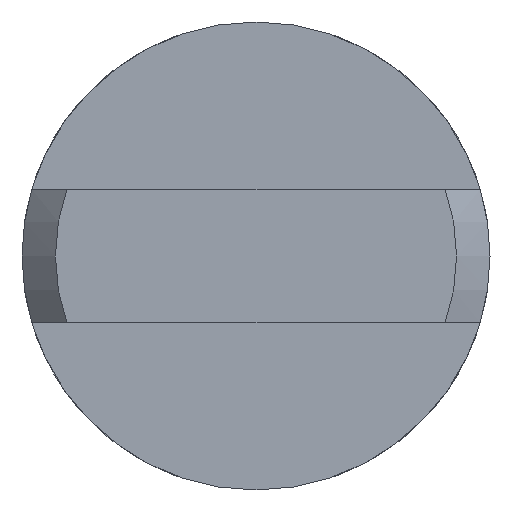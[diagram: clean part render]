
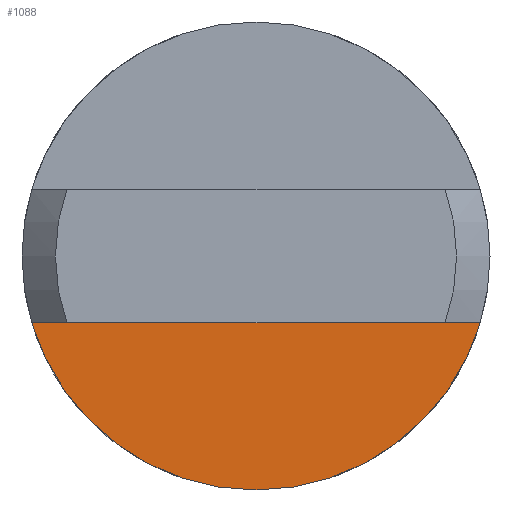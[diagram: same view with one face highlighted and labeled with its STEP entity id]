
A CAD part, left-side view. The second image highlights one B-rep face of the part: STEP entity #1088.
In plain terms, the highlighted planar face has unit normal (-1, 0, 0).
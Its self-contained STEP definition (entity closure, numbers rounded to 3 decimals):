
#14 = AXIS2_PLACEMENT_3D ( 'NONE', #487, #935, #1368 ) ;
#24 = CARTESIAN_POINT ( 'NONE',  ( -16.05, 0., -3.5 ) ) ;
#60 = PLANE ( 'NONE',  #14 ) ;
#105 = VERTEX_POINT ( 'NONE', #24 ) ;
#127 = EDGE_CURVE ( 'NONE', #105, #929, #1227, .T. ) ;
#159 = CARTESIAN_POINT ( 'NONE',  ( -16.05, 0., 0. ) ) ;
#196 = AXIS2_PLACEMENT_3D ( 'NONE', #159, #374, #1125 ) ;
#216 = LINE ( 'NONE', #1273, #536 ) ;
#237 = CARTESIAN_POINT ( 'NONE',  ( -16.05, -3.354, -1. ) ) ;
#245 = AXIS2_PLACEMENT_3D ( 'NONE', #1335, #707, #1214 ) ;
#297 = EDGE_CURVE ( 'NONE', #929, #446, #216, .T. ) ;
#324 = ORIENTED_EDGE ( 'NONE', *, *, #504, .F. ) ;
#374 = DIRECTION ( 'NONE',  ( 1., 0., 0. ) ) ;
#446 = VERTEX_POINT ( 'NONE', #237 ) ;
#487 = CARTESIAN_POINT ( 'NONE',  ( -16.05, 0., 0. ) ) ;
#504 = EDGE_CURVE ( 'NONE', #446, #105, #1356, .T. ) ;
#536 = VECTOR ( 'NONE', #849, 1000. ) ;
#707 = DIRECTION ( 'NONE',  ( 1., 0., 0. ) ) ;
#849 = DIRECTION ( 'NONE',  ( 0., -1., 0. ) ) ;
#866 = EDGE_LOOP ( 'NONE', ( #1234, #993, #324 ) ) ;
#875 = CARTESIAN_POINT ( 'NONE',  ( -16.05, 3.354, -1. ) ) ;
#929 = VERTEX_POINT ( 'NONE', #875 ) ;
#935 = DIRECTION ( 'NONE',  ( 1., 0., 0. ) ) ;
#993 = ORIENTED_EDGE ( 'NONE', *, *, #127, .F. ) ;
#1046 = FACE_OUTER_BOUND ( 'NONE', #866, .T. ) ;
#1088 = ADVANCED_FACE ( 'NONE', ( #1046 ), #60, .F. ) ;
#1125 = DIRECTION ( 'NONE',  ( 0., 0., -1. ) ) ;
#1214 = DIRECTION ( 'NONE',  ( 0., 0., -1. ) ) ;
#1227 = CIRCLE ( 'NONE', #245, 3.5 ) ;
#1234 = ORIENTED_EDGE ( 'NONE', *, *, #297, .F. ) ;
#1273 = CARTESIAN_POINT ( 'NONE',  ( -16.05, -4.909, -1. ) ) ;
#1335 = CARTESIAN_POINT ( 'NONE',  ( -16.05, 0., 0. ) ) ;
#1356 = CIRCLE ( 'NONE', #196, 3.5 ) ;
#1368 = DIRECTION ( 'NONE',  ( 0., 0., -1. ) ) ;
